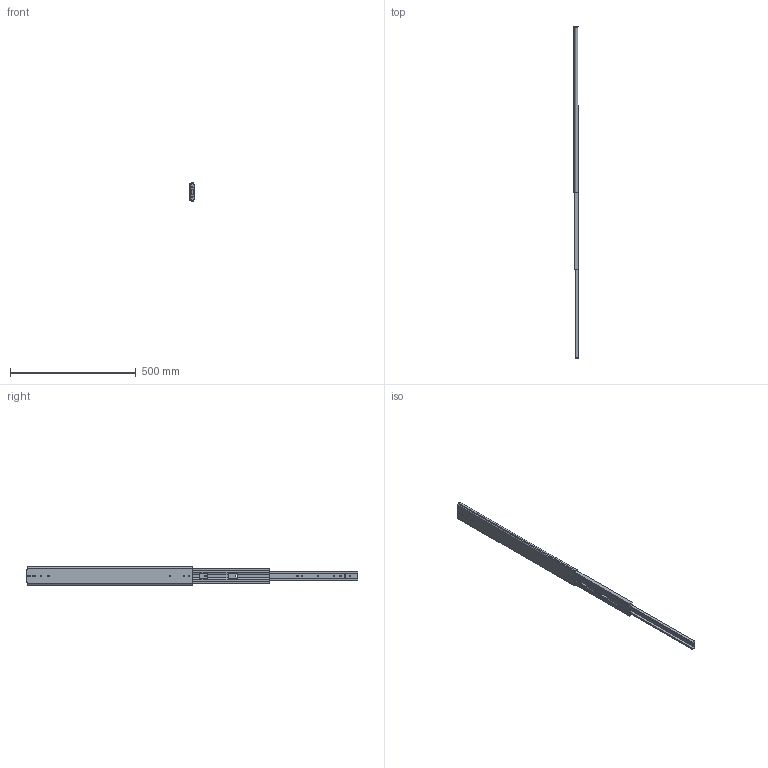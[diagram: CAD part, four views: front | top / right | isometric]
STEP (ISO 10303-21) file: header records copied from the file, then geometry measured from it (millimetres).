
FILE_DESCRIPTION(/* description */ ('Unknown'),/* implementation_level */ '2;1');
FILE_NAME(/* name */ '76J01-26 open',/* time_stamp */ '2024-07-26T15:50:50+08:00',/* author */ ('Unknown'),/* organization */ ('Unknown'),/* preprocessor_version */ 'ST-DEVELOPER v18.104',/* originating_system */ 'Solid Edge',/* authorisation */ 'Unknown');
FILE_SCHEMA (('AUTOMOTIVE_DESIGN {1 0 10303 214 3 1 1}'));
Length unit declared in the file: millimetre
Products named in the file (4): 76J01-26 open; 76J01 26 inch 內_0tional)_Taiwan.950; 76J01 26 吋中_; 76J01 26 吋
Assembly tree (3 placements, depth 2):
  76J01-26 open
    76J01 26 inch 內_0tional)_Taiwan.950
    76J01 26 吋中_
    76J01 26 吋
Bounding box: 19.3 x 1320.1 x 76.76 mm (x, y, z)
Volume: 516208.2 mm3; surface area: 321941.7 mm2
Topology: 3 solids, 3 shells, 188 faces, 575 edges, 387 vertices
Faces by surface type: plane 104, cylinder 84
Full cylindrical faces by diameter (mm): 5.2 x9, 7.1 x2
Entity records: 6871 total; most frequent: CARTESIAN_POINT 1124, ORIENTED_EDGE 1106, DIRECTION 1105, EDGE_CURVE 553, LINE 383, VECTOR 383, VERTEX_POINT 376, AXIS2_PLACEMENT_3D 361
